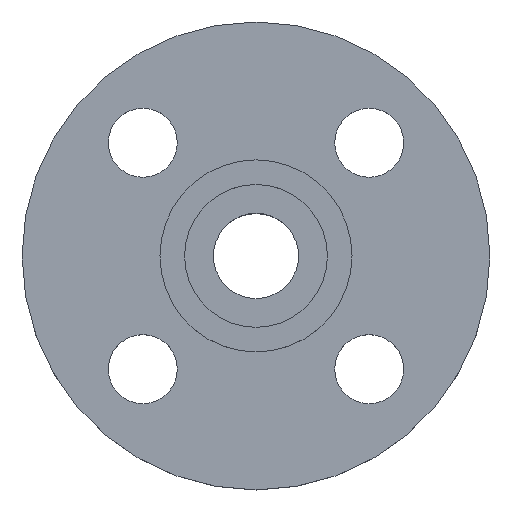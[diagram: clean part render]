
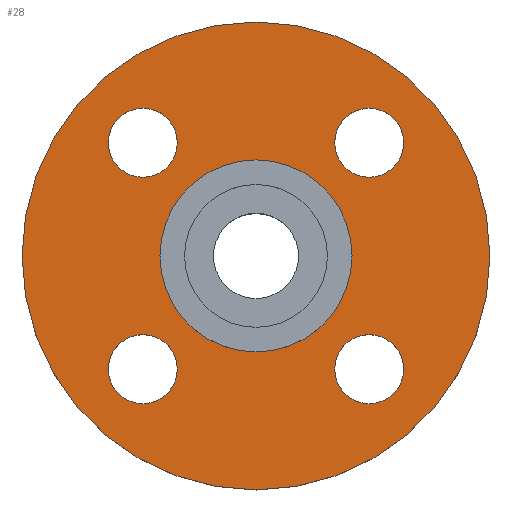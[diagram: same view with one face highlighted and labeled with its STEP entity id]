
A CAD part, top view. The second image highlights one B-rep face of the part: STEP entity #28.
In plain terms, the highlighted planar face has unit normal (0, 0, 1).
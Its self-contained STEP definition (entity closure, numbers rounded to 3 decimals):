
#2 = EDGE_CURVE ( 'NONE', #777, #667, #351, .T. ) ;
#3 = DIRECTION ( 'NONE',  ( 1., 0., 0. ) ) ;
#5 = AXIS2_PLACEMENT_3D ( 'NONE', #629, #96, #394 ) ;
#7 = CIRCLE ( 'NONE', #8, 7. ) ;
#8 = AXIS2_PLACEMENT_3D ( 'NONE', #563, #564, #565 ) ;
#24 = AXIS2_PLACEMENT_3D ( 'NONE', #432, #435, #436 ) ;
#28 = ADVANCED_FACE ( 'NONE', ( #424, #425, #426, #427, #429, #430 ), #431, .T. ) ;
#74 = DIRECTION ( 'NONE',  ( 1., 0., 0. ) ) ;
#76 = DIRECTION ( 'NONE',  ( 0., 0., -1. ) ) ;
#78 = CARTESIAN_POINT ( 'NONE',  ( -22.981, 22.981, -4.5 ) ) ;
#83 = DIRECTION ( 'NONE',  ( 0., 0., -1. ) ) ;
#86 = CARTESIAN_POINT ( 'NONE',  ( -22.981, -22.981, -4.5 ) ) ;
#96 = DIRECTION ( 'NONE',  ( 0., 0., -1. ) ) ;
#104 = CARTESIAN_POINT ( 'NONE',  ( 15.981, -22.981, -4.5 ) ) ;
#105 = DIRECTION ( 'NONE',  ( -1., 0., 0. ) ) ;
#106 = DIRECTION ( 'NONE',  ( 0., 0., -1. ) ) ;
#109 = CARTESIAN_POINT ( 'NONE',  ( 0., 0., -4.5 ) ) ;
#119 = CIRCLE ( 'NONE', #121, 47.5 ) ;
#121 = AXIS2_PLACEMENT_3D ( 'NONE', #539, #540, #541 ) ;
#137 = CARTESIAN_POINT ( 'NONE',  ( 47.5, 0., -4.5 ) ) ;
#139 = CIRCLE ( 'NONE', #141, 7. ) ;
#141 = AXIS2_PLACEMENT_3D ( 'NONE', #581, #582, #583 ) ;
#146 = CIRCLE ( 'NONE', #149, 7. ) ;
#149 = AXIS2_PLACEMENT_3D ( 'NONE', #561, #438, #456 ) ;
#174 = CIRCLE ( 'NONE', #175, 7. ) ;
#175 = AXIS2_PLACEMENT_3D ( 'NONE', #577, #593, #586 ) ;
#187 = CARTESIAN_POINT ( 'NONE',  ( -19.5, 0., -4.5 ) ) ;
#190 = EDGE_CURVE ( 'NONE', #858, #694, #119, .T. ) ;
#207 = EDGE_CURVE ( 'NONE', #694, #858, #341, .T. ) ;
#223 = CARTESIAN_POINT ( 'NONE',  ( -47.5, 0., -4.5 ) ) ;
#224 = CARTESIAN_POINT ( 'NONE',  ( -29.981, 22.981, -4.5 ) ) ;
#229 = DIRECTION ( 'NONE',  ( 1., 0., 0. ) ) ;
#230 = DIRECTION ( 'NONE',  ( 0., 0., -1. ) ) ;
#233 = CARTESIAN_POINT ( 'NONE',  ( 22.981, -22.981, -4.5 ) ) ;
#239 = CARTESIAN_POINT ( 'NONE',  ( -15.981, 22.981, -4.5 ) ) ;
#241 = EDGE_CURVE ( 'NONE', #651, #672, #7, .T. ) ;
#248 = CARTESIAN_POINT ( 'NONE',  ( 15.981, 22.981, -4.5 ) ) ;
#253 = CARTESIAN_POINT ( 'NONE',  ( 19.5, 0., -4.5 ) ) ;
#255 = CARTESIAN_POINT ( 'NONE',  ( -29.981, -22.981, -4.5 ) ) ;
#265 = CARTESIAN_POINT ( 'NONE',  ( -15.981, -22.981, -4.5 ) ) ;
#268 = CARTESIAN_POINT ( 'NONE',  ( 29.981, 22.981, -4.5 ) ) ;
#271 = CIRCLE ( 'NONE', #272, 7. ) ;
#272 = AXIS2_PLACEMENT_3D ( 'NONE', #233, #230, #229 ) ;
#276 = CARTESIAN_POINT ( 'NONE',  ( 29.981, -22.981, -4.5 ) ) ;
#329 = EDGE_CURVE ( 'NONE', #693, #679, #139, .T. ) ;
#331 = CIRCLE ( 'NONE', #332, 19.5 ) ;
#332 = AXIS2_PLACEMENT_3D ( 'NONE', #109, #106, #105 ) ;
#338 = AXIS2_PLACEMENT_3D ( 'NONE', #542, #544, #546 ) ;
#341 = CIRCLE ( 'NONE', #338, 47.5 ) ;
#351 = CIRCLE ( 'NONE', #414, 19.5 ) ;
#354 = CIRCLE ( 'NONE', #5, 7. ) ;
#363 = EDGE_CURVE ( 'NONE', #658, #665, #146, .T. ) ;
#370 = CIRCLE ( 'NONE', #373, 7. ) ;
#373 = AXIS2_PLACEMENT_3D ( 'NONE', #86, #83, #3 ) ;
#376 = CIRCLE ( 'NONE', #379, 7. ) ;
#379 = AXIS2_PLACEMENT_3D ( 'NONE', #78, #76, #74 ) ;
#394 = DIRECTION ( 'NONE',  ( 1., 0., 0. ) ) ;
#414 = AXIS2_PLACEMENT_3D ( 'NONE', #894, #895, #896 ) ;
#424 = FACE_BOUND ( 'NONE', #888, .T. ) ;
#425 = FACE_BOUND ( 'NONE', #657, .T. ) ;
#426 = FACE_BOUND ( 'NONE', #690, .T. ) ;
#427 = FACE_BOUND ( 'NONE', #683, .T. ) ;
#429 = FACE_BOUND ( 'NONE', #684, .T. ) ;
#430 = FACE_OUTER_BOUND ( 'NONE', #818, .T. ) ;
#431 = PLANE ( 'NONE',  #24 ) ;
#432 = CARTESIAN_POINT ( 'NONE',  ( 19.5, 0., -4.5 ) ) ;
#435 = DIRECTION ( 'NONE',  ( 0., 0., 1. ) ) ;
#436 = DIRECTION ( 'NONE',  ( 1., 0., 0. ) ) ;
#438 = DIRECTION ( 'NONE',  ( 0., 0., -1. ) ) ;
#456 = DIRECTION ( 'NONE',  ( 1., 0., 0. ) ) ;
#483 = EDGE_CURVE ( 'NONE', #877, #645, #174, .T. ) ;
#539 = CARTESIAN_POINT ( 'NONE',  ( 0., 0., -4.5 ) ) ;
#540 = DIRECTION ( 'NONE',  ( 0., 0., -1. ) ) ;
#541 = DIRECTION ( 'NONE',  ( -1., 0., 0. ) ) ;
#542 = CARTESIAN_POINT ( 'NONE',  ( 0., 0., -4.5 ) ) ;
#544 = DIRECTION ( 'NONE',  ( 0., 0., -1. ) ) ;
#546 = DIRECTION ( 'NONE',  ( -1., 0., 0. ) ) ;
#547 = EDGE_CURVE ( 'NONE', #672, #651, #354, .T. ) ;
#561 = CARTESIAN_POINT ( 'NONE',  ( -22.981, -22.981, -4.5 ) ) ;
#563 = CARTESIAN_POINT ( 'NONE',  ( 22.981, 22.981, -4.5 ) ) ;
#564 = DIRECTION ( 'NONE',  ( 0., 0., -1. ) ) ;
#565 = DIRECTION ( 'NONE',  ( 1., 0., 0. ) ) ;
#577 = CARTESIAN_POINT ( 'NONE',  ( 22.981, -22.981, -4.5 ) ) ;
#581 = CARTESIAN_POINT ( 'NONE',  ( -22.981, 22.981, -4.5 ) ) ;
#582 = DIRECTION ( 'NONE',  ( 0., 0., -1. ) ) ;
#583 = DIRECTION ( 'NONE',  ( 1., 0., 0. ) ) ;
#586 = DIRECTION ( 'NONE',  ( 1., 0., 0. ) ) ;
#593 = DIRECTION ( 'NONE',  ( 0., 0., -1. ) ) ;
#629 = CARTESIAN_POINT ( 'NONE',  ( 22.981, 22.981, -4.5 ) ) ;
#645 = VERTEX_POINT ( 'NONE', #276 ) ;
#651 = VERTEX_POINT ( 'NONE', #268 ) ;
#657 = EDGE_LOOP ( 'NONE', ( #772, #773 ) ) ;
#658 = VERTEX_POINT ( 'NONE', #265 ) ;
#665 = VERTEX_POINT ( 'NONE', #255 ) ;
#667 = VERTEX_POINT ( 'NONE', #253 ) ;
#672 = VERTEX_POINT ( 'NONE', #248 ) ;
#679 = VERTEX_POINT ( 'NONE', #239 ) ;
#683 = EDGE_LOOP ( 'NONE', ( #776, #778 ) ) ;
#684 = EDGE_LOOP ( 'NONE', ( #779, #780 ) ) ;
#688 = EDGE_CURVE ( 'NONE', #645, #877, #271, .T. ) ;
#690 = EDGE_LOOP ( 'NONE', ( #774, #775 ) ) ;
#693 = VERTEX_POINT ( 'NONE', #224 ) ;
#694 = VERTEX_POINT ( 'NONE', #223 ) ;
#769 = ORIENTED_EDGE ( 'NONE', *, *, #688, .T. ) ;
#770 = ORIENTED_EDGE ( 'NONE', *, *, #483, .T. ) ;
#772 = ORIENTED_EDGE ( 'NONE', *, *, #363, .T. ) ;
#773 = ORIENTED_EDGE ( 'NONE', *, *, #885, .T. ) ;
#774 = ORIENTED_EDGE ( 'NONE', *, *, #887, .T. ) ;
#775 = ORIENTED_EDGE ( 'NONE', *, *, #329, .T. ) ;
#776 = ORIENTED_EDGE ( 'NONE', *, *, #241, .T. ) ;
#777 = VERTEX_POINT ( 'NONE', #187 ) ;
#778 = ORIENTED_EDGE ( 'NONE', *, *, #547, .T. ) ;
#779 = ORIENTED_EDGE ( 'NONE', *, *, #2, .T. ) ;
#780 = ORIENTED_EDGE ( 'NONE', *, *, #876, .T. ) ;
#782 = ORIENTED_EDGE ( 'NONE', *, *, #190, .F. ) ;
#783 = ORIENTED_EDGE ( 'NONE', *, *, #207, .F. ) ;
#818 = EDGE_LOOP ( 'NONE', ( #782, #783 ) ) ;
#858 = VERTEX_POINT ( 'NONE', #137 ) ;
#876 = EDGE_CURVE ( 'NONE', #667, #777, #331, .T. ) ;
#877 = VERTEX_POINT ( 'NONE', #104 ) ;
#885 = EDGE_CURVE ( 'NONE', #665, #658, #370, .T. ) ;
#887 = EDGE_CURVE ( 'NONE', #679, #693, #376, .T. ) ;
#888 = EDGE_LOOP ( 'NONE', ( #769, #770 ) ) ;
#894 = CARTESIAN_POINT ( 'NONE',  ( 0., 0., -4.5 ) ) ;
#895 = DIRECTION ( 'NONE',  ( 0., 0., -1. ) ) ;
#896 = DIRECTION ( 'NONE',  ( -1., 0., 0. ) ) ;
